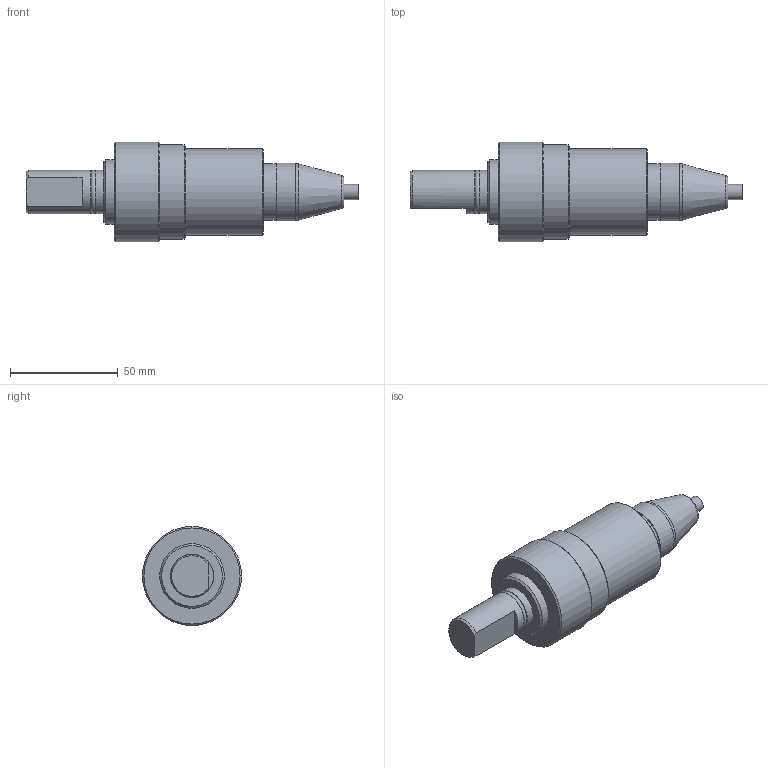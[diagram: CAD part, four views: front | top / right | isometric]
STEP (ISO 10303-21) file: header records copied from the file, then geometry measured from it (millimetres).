
FILE_DESCRIPTION( ( 'STEP AP214' ), '1' );
FILE_NAME( 'p:/temp/worker_113/temp/app_41_02018111516121499029659192d056f_000000_00_00_000000/format_0/AMF548180.stp', '2018-11-15T15:12:15', ( '' ), ( '' ), ' ', 'PARTsolutions', ' ' );
FILE_SCHEMA( ( 'AUTOMOTIVE_DESIGN { 1 0 10303 214 1 1 1 1 }' ) );
Length unit declared in the file: millimetre
Products named in the file (1): _AMF548180
Bounding box: 154 x 46 x 46 mm (x, y, z)
Volume: 128240.3 mm3; surface area: 18206.4 mm2
Topology: 1 solids, 1 shells, 39 faces, 66 edges, 41 vertices
Faces by surface type: plane 16, cylinder 14, cone 7, torus 2
Full cylindrical faces by diameter (mm): 4 x1, 7 x1, 18.845 x2, 20 x2, 26 x2, 26.9 x1, 30 x1, 34 x1, 40 x1, 44 x1, 46 x1
Entity records: 1140 total; most frequent: DIRECTION 158, CARTESIAN_POINT 130, ORIENTED_EDGE 86, AXIS2_PLACEMENT_3D 77, EDGE_LOOP 73, FACE_OUTER_BOUND 55, EDGE_CURVE 43, VERTEX_POINT 41
